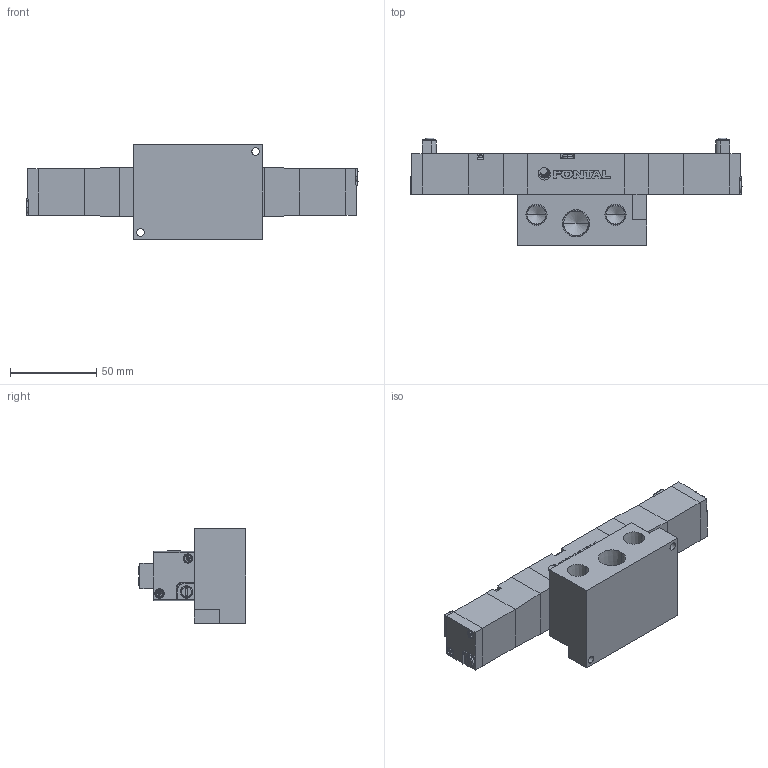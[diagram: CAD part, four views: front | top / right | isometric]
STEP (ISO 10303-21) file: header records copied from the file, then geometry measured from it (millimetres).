
FILE_DESCRIPTION (( 'STEP AP203' ), '1' );
FILE_NAME ('PCD(E¡BO)3408#-03-#L#.STEP', '2016-02-04T05:56:29', ( 'Sam Lin' ), ( '' ), 'SwSTEP 2.0', 'SolidWorks 2013', '' );
FILE_SCHEMA (( 'CONFIG_CONTROL_DESIGN' ));
Length unit declared in the file: metre
Products named in the file (12): PCS2406-8; PCS2406-9; PC08-1; PC6-M3; PC08-2; PCS2406-7-L; PC08-MARK; PCD(E、O)3408#-03-#L#; PC6-M4; PC08-4; PCS2406-3-小圓珠; PC08-5
Assembly tree (21 placements, depth 2):
  PCD(E、O)3408#-03-#L#
    PC08-1
    PC08-2
    PC08-MARK
    PC6-M4  x2
    PC08-4  x2
    PCS2406-3-小圓珠  x2
    PC08-5  x2
    PCS2406-8  x2
    PCS2406-9  x2
    PC6-M3  x4
    PCS2406-7-L  x2
Bounding box: 193 x 62.5 x 55 mm (x, y, z)
Volume: 235455.2 mm3; surface area: 55082.5 mm2
Topology: 27 solids, 27 shells, 538 faces, 1319 edges, 833 vertices
Faces by surface type: plane 300, cylinder 94, cone 74, bspline 70
Entity records: 11621 total; most frequent: CARTESIAN_POINT 2794, ORIENTED_EDGE 1512, DIRECTION 1486, EDGE_CURVE 756, AXIS2_PLACEMENT_3D 515, VERTEX_POINT 495, LINE 456, VECTOR 456
